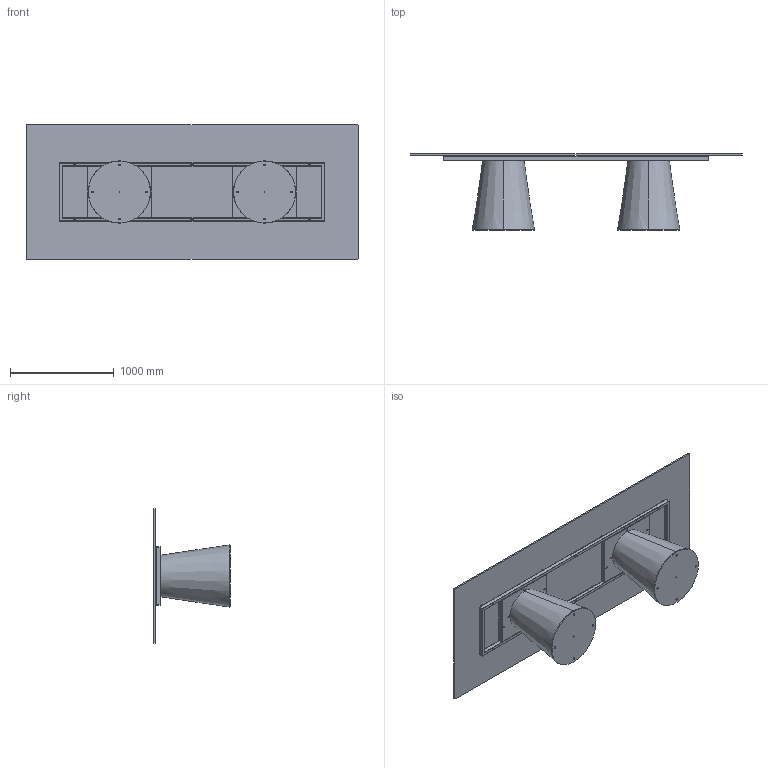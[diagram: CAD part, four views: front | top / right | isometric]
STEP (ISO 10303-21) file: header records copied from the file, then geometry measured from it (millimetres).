
FILE_DESCRIPTION (( 'STEP AP203' ), '1' );
FILE_NAME ('TO25G_Teo_320x130_Glass Rectangular.STEP', '2024-08-02T09:35:47', ( '' ), ( '' ), 'SwSTEP 2.0', 'SolidWorks 2022', '' );
FILE_SCHEMA (( 'CONFIG_CONTROL_DESIGN' ));
Length unit declared in the file: millimetre
Products named in the file (11): M8xXXmm_hex_M8X20mm; COLLO TELAIO UNIVERSALE TTAV03 CON FERRAMENTA_MTG TOP CRISTALLO VERNICIATO-CERAMICA; BASE TED LEGNO CON ZAVORRA; TTAV03_02-06-VASSOIO IRRIGIDIMENTO TELAIO UNIVERSALE RETTANGOLARE; TTAV03_01-06-RING TUBO TELAIO UNIVERSALE X TAVOLI 300-340cm; TEO0000-00-TEO BASE LEGNO IMPIALLACCIATA LEVIGATO PRONTA X VERNICE; TO25G_Teo_320x130_Glass Rectangular; 434070-00-PIEDINO TPV GOMMA NERO D. 30x8max18_filo estetico; TEO000000PIA-00-TEO PIASTRA DI BASE IN METALLO GREZZO; C2XCRXX-00-Piani Rettangolari Cristallo_25 3200x1300; TTAV03-06-TELAIO UNIVERSALE X TAVOLI 300-340cm
Assembly tree (22 placements, depth 4):
  TO25G_Teo_320x130_Glass Rectangular
    BASE TED LEGNO CON ZAVORRA  x2
      TEO000000PIA-00-TEO PIASTRA DI BASE IN METALLO GREZZO
      TEO0000-00-TEO BASE LEGNO IMPIALLACCIATA LEVIGATO PRONTA X VERNICE
      M8xXXmm_hex_M8X20mm
    COLLO TELAIO UNIVERSALE TTAV03 CON FERRAMENTA_MTG TOP CRISTALLO VERNICIATO-CERAMICA
      TTAV03-06-TELAIO UNIVERSALE X TAVOLI 300-340cm
        TTAV03_01-06-RING TUBO TELAIO UNIVERSALE X TAVOLI 300-340cm
        TTAV03_02-06-VASSOIO IRRIGIDIMENTO TELAIO UNIVERSALE RETTANGOLARE  x2
      434070-00-PIEDINO TPV GOMMA NERO D. 30x8max18_filo estetico  x8
    C2XCRXX-00-Piani Rettangolari Cristallo_25 3200x1300
Bounding box: 3200 x 738.19 x 1300 mm (x, y, z)
Volume: 122961888.6 mm3; surface area: 18094721 mm2
Topology: 32 solids, 32 shells, 862 faces, 1952 edges, 1144 vertices
Faces by surface type: plane 426, cylinder 276, cone 104, torus 48, sphere 8
Entity records: 12073 total; most frequent: DIRECTION 1942, CARTESIAN_POINT 1801, ORIENTED_EDGE 1728, EDGE_CURVE 864, AXIS2_PLACEMENT_3D 704, LINE 534, VECTOR 534, VERTEX_POINT 531
